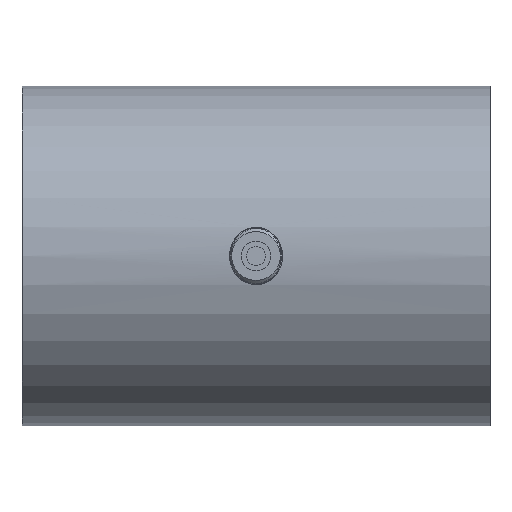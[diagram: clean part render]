
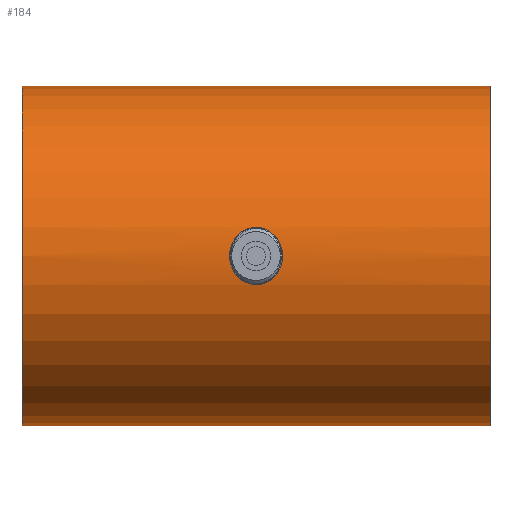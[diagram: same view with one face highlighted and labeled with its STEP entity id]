
A CAD part, front view. The second image highlights one B-rep face of the part: STEP entity #184.
In plain terms, the highlighted cylindrical face has radius 90.8 mm (diameter 181.6 mm), a full revolution.
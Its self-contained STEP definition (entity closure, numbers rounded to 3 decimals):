
#107=B_SPLINE_CURVE_WITH_KNOTS('',3,(#1430,#1431,#1432,#1433,#1434,#1435,
#1436,#1437,#1438,#1439,#1440,#1441,#1442,#1443,#1444,#1445,#1446,#1447,
#1448,#1449,#1450,#1451),.UNSPECIFIED.,.T.,.F.,(2,2,2,2,2,2,2,2,2,2,2,2,
2),(-0.063,0.,0.125,0.25,0.375,0.437,
0.5,0.625,0.75,0.875,
0.938,1.,1.125),.UNSPECIFIED.);
#108=B_SPLINE_CURVE_WITH_KNOTS('',3,(#1453,#1454,#1455,#1456,#1457,#1458,
#1459,#1460,#1461,#1462,#1463,#1464,#1465,#1466,#1467,#1468,#1469,#1470,
#1471,#1472,#1473,#1474),.UNSPECIFIED.,.T.,.F.,(2,2,2,2,2,2,2,2,2,2,2,2,
2),(-0.125,0.,0.062,0.125,0.25,0.375,
0.5,0.562,0.625,0.75,
0.875,1.,1.063),.UNSPECIFIED.);
#136=CYLINDRICAL_SURFACE('',#999,90.8);
#184=ADVANCED_FACE('',(#323,#324,#325,#326),#136,.T.);
#323=FACE_BOUND('',#445,.T.);
#324=FACE_BOUND('',#446,.T.);
#325=FACE_BOUND('',#447,.T.);
#326=FACE_BOUND('',#448,.T.);
#445=EDGE_LOOP('',(#611));
#446=EDGE_LOOP('',(#612));
#447=EDGE_LOOP('',(#613));
#448=EDGE_LOOP('',(#614));
#611=ORIENTED_EDGE('',*,*,#849,.T.);
#612=ORIENTED_EDGE('',*,*,#850,.T.);
#613=ORIENTED_EDGE('',*,*,#845,.T.);
#614=ORIENTED_EDGE('',*,*,#847,.T.);
#757=VERTEX_POINT('',#1421);
#759=VERTEX_POINT('',#1426);
#761=VERTEX_POINT('',#1452);
#762=VERTEX_POINT('',#1475);
#845=EDGE_CURVE('',#757,#757,#921,.T.);
#847=EDGE_CURVE('',#759,#759,#923,.T.);
#849=EDGE_CURVE('',#761,#761,#107,.T.);
#850=EDGE_CURVE('',#762,#762,#108,.T.);
#921=CIRCLE('',#993,90.8);
#923=CIRCLE('',#996,90.8);
#993=AXIS2_PLACEMENT_3D('',#1420,#1154,#1155);
#996=AXIS2_PLACEMENT_3D('',#1425,#1160,#1161);
#999=AXIS2_PLACEMENT_3D('',#1476,#1166,#1167);
#1154=DIRECTION('',(-1.,0.,0.));
#1155=DIRECTION('',(0.,0.,1.));
#1160=DIRECTION('',(1.,0.,0.));
#1161=DIRECTION('',(0.,0.,-1.));
#1166=DIRECTION('',(1.,0.,0.));
#1167=DIRECTION('',(0.,0.,-1.));
#1420=CARTESIAN_POINT('',(125.,-48.3,125.));
#1421=CARTESIAN_POINT('',(125.,-48.3,215.8));
#1425=CARTESIAN_POINT('',(-125.,-48.3,125.));
#1426=CARTESIAN_POINT('',(-125.,-48.3,34.2));
#1430=CARTESIAN_POINT('',(-2.298,-137.806,109.715));
#1431=CARTESIAN_POINT('',(-7.848,-138.111,111.573));
#1432=CARTESIAN_POINT('',(-10.853,-138.549,114.427));
#1433=CARTESIAN_POINT('',(-14.215,-139.092,121.339));
#1434=CARTESIAN_POINT('',(-14.602,-139.175,125.457));
#1435=CARTESIAN_POINT('',(-12.646,-138.833,132.889));
#1436=CARTESIAN_POINT('',(-10.282,-138.42,136.281));
#1437=CARTESIAN_POINT('',(-5.389,-137.969,139.326));
#1438=CARTESIAN_POINT('',(-3.54,-137.852,140.003));
#1439=CARTESIAN_POINT('',(0.316,-137.77,140.486));
#1440=CARTESIAN_POINT('',(2.284,-137.806,140.286));
#1441=CARTESIAN_POINT('',(7.813,-138.108,138.445));
#1442=CARTESIAN_POINT('',(10.832,-138.546,135.61));
#1443=CARTESIAN_POINT('',(14.228,-139.094,128.638));
#1444=CARTESIAN_POINT('',(14.605,-139.176,124.548));
#1445=CARTESIAN_POINT('',(12.639,-138.832,117.092));
#1446=CARTESIAN_POINT('',(10.262,-138.417,113.7));
#1447=CARTESIAN_POINT('',(5.375,-137.968,110.669));
#1448=CARTESIAN_POINT('',(3.504,-137.851,109.99));
#1449=CARTESIAN_POINT('',(-0.316,-137.77,109.517));
#1450=CARTESIAN_POINT('',(-2.298,-137.806,109.715));
#1451=CARTESIAN_POINT('',(-7.848,-138.111,111.573));
#1452=CARTESIAN_POINT('',(-4.148,-137.908,110.334));
#1453=CARTESIAN_POINT('',(-7.848,41.511,111.573));
#1454=CARTESIAN_POINT('',(-2.298,41.206,109.715));
#1455=CARTESIAN_POINT('',(-0.332,41.17,109.516));
#1456=CARTESIAN_POINT('',(3.497,41.251,109.988));
#1457=CARTESIAN_POINT('',(5.363,41.367,110.662));
#1458=CARTESIAN_POINT('',(10.275,41.818,113.707));
#1459=CARTESIAN_POINT('',(12.645,42.233,117.093));
#1460=CARTESIAN_POINT('',(14.61,42.577,124.589));
#1461=CARTESIAN_POINT('',(14.213,42.492,128.674));
#1462=CARTESIAN_POINT('',(10.84,41.947,135.59));
#1463=CARTESIAN_POINT('',(7.832,41.51,138.429));
#1464=CARTESIAN_POINT('',(2.322,41.207,140.279));
#1465=CARTESIAN_POINT('',(0.37,41.17,140.486));
#1466=CARTESIAN_POINT('',(-3.508,41.251,140.013));
#1467=CARTESIAN_POINT('',(-5.361,41.367,139.339));
#1468=CARTESIAN_POINT('',(-10.273,41.818,136.295));
#1469=CARTESIAN_POINT('',(-12.642,42.232,132.907));
#1470=CARTESIAN_POINT('',(-14.607,42.576,125.435));
#1471=CARTESIAN_POINT('',(-14.226,42.494,121.358));
#1472=CARTESIAN_POINT('',(-10.835,41.946,114.395));
#1473=CARTESIAN_POINT('',(-7.848,41.511,111.573));
#1474=CARTESIAN_POINT('',(-2.298,41.206,109.715));
#1475=CARTESIAN_POINT('',(-4.148,41.308,110.334));
#1476=CARTESIAN_POINT('',(-125.,-48.3,125.));
